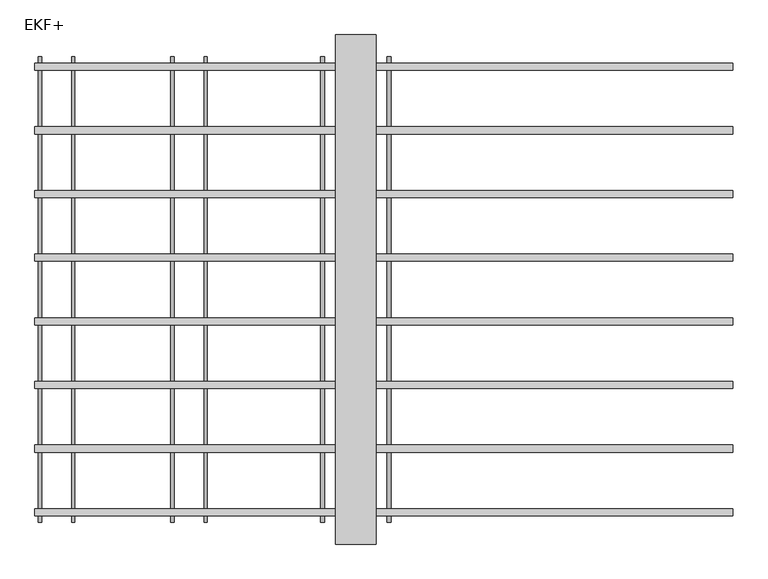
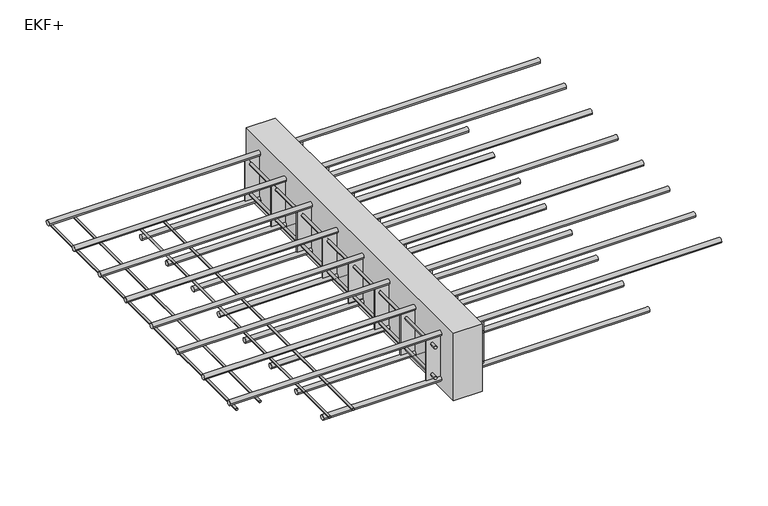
"""IFC4 building model written with IfcOpenShell, lengths in millimetres: fastener geometry, ACINOXplus_Typenreihe_EK : EKF+."""

from ifc_helpers import new_model, si_unit, point, frame, frame_2d, origin, place, context, project, spatial, polyline, circle_curve, trimmed, segment, composite_curve, outline, extrude, source, transform, mapped, element, save


def ekf_7334e405(model_context):
    return source(origin(), model_context, "Body", "SweptSolid", [
        extrude(outline(polyline([(40.0, 500.0), (40.0, -500.0), (-40.0, -500.0), (-40.0, 500.0), (40.0, 500.0)])), frame((0.0, 0.0, -200.0), z_axis=(0.0, 0.0, 1.0), x_axis=(1.0, 0.0, 0.0)), (0.0, 0.0, 1.0), 200.0),
        extrude(outline(polyline([(80.0, -311.0), (80.0, -314.0), (-80.0, -314.0), (-80.0, -311.0), (80.0, -311.0)])), frame((0.0, 0.0, -164.0), z_axis=(0.0, 0.0, 1.0), x_axis=(1.0, 0.0, 0.0)), (0.0, 0.0, 1.0), 120.0),
        extrude(outline(polyline([(80.0, -186.0), (80.0, -189.0), (-80.0, -189.0), (-80.0, -186.0), (80.0, -186.0)])), frame((0.0, 0.0, -164.0), z_axis=(0.0, 0.0, 1.0), x_axis=(1.0, 0.0, 0.0)), (0.0, 0.0, 1.0), 120.0),
        extrude(outline(polyline([(80.0, -61.0), (80.0, -64.0), (-80.0, -64.0), (-80.0, -61.0), (80.0, -61.0)])), frame((0.0, 0.0, -164.0), z_axis=(0.0, 0.0, 1.0), x_axis=(1.0, 0.0, 0.0)), (0.0, 0.0, 1.0), 120.0),
        extrude(outline(polyline([(80.0, 64.0), (80.0, 61.0), (-80.0, 61.0), (-80.0, 64.0), (80.0, 64.0)])), frame((0.0, 0.0, -164.0), z_axis=(0.0, 0.0, 1.0), x_axis=(1.0, 0.0, 0.0)), (0.0, 0.0, 1.0), 120.0),
        extrude(outline(polyline([(80.0, 189.0), (80.0, 186.0), (-80.0, 186.0), (-80.0, 189.0), (80.0, 189.0)])), frame((0.0, 0.0, -164.0), z_axis=(0.0, 0.0, 1.0), x_axis=(1.0, 0.0, 0.0)), (0.0, 0.0, 1.0), 120.0),
        extrude(outline(polyline([(80.0, 314.0), (80.0, 311.0), (-80.0, 311.0), (-80.0, 314.0), (80.0, 314.0)])), frame((0.0, 0.0, -164.0), z_axis=(0.0, 0.0, 1.0), x_axis=(1.0, 0.0, 0.0)), (0.0, 0.0, 1.0), 120.0),
        extrude(outline(polyline([(80.0, -436.0), (80.0, -439.0), (-80.0, -439.0), (-80.0, -436.0), (80.0, -436.0)])), frame((0.0, 0.0, -164.0), z_axis=(0.0, 0.0, 1.0), x_axis=(1.0, 0.0, 0.0)), (0.0, 0.0, 1.0), 120.0),
        extrude(outline(polyline([(80.0, 439.0), (80.0, 436.0), (-80.0, 436.0), (-80.0, 439.0), (80.0, 439.0)])), frame((0.0, 0.0, -164.0), z_axis=(0.0, 0.0, 1.0), x_axis=(1.0, 0.0, 0.0)), (0.0, 0.0, 1.0), 120.0),
        extrude(outline(composite_curve([segment(trimmed(circle_curve(frame_2d((-149.0, -65.0)), 4.0), [point((-149.0, -61.0))], [point((-149.0, -69.0))], False, "CARTESIAN"), True, "CONTINUOUS"), segment(trimmed(circle_curve(frame_2d((-149.0, -65.0)), 4.0), [point((-149.0, -69.0))], [point((-149.0, -61.0))], False, "CARTESIAN"), True, "CONTINUOUS")], self_intersect=False)), frame((0.0, -457.5, 0.0), z_axis=(0.0, 1.0, 0.0), x_axis=(0.0, 0.0, 1.0)), (0.0, 0.0, 1.0), 915.0),
        extrude(outline(composite_curve([segment(trimmed(circle_curve(frame_2d((-149.0, 65.0)), 4.0), [point((-149.0, 69.0))], [point((-149.0, 61.0))], False, "CARTESIAN"), True, "CONTINUOUS"), segment(trimmed(circle_curve(frame_2d((-149.0, 65.0)), 4.0), [point((-149.0, 61.0))], [point((-149.0, 69.0))], False, "CARTESIAN"), True, "CONTINUOUS")], self_intersect=False)), frame((0.0, -457.5, 0.0), z_axis=(0.0, 1.0, 0.0), x_axis=(0.0, 0.0, 1.0)), (0.0, 0.0, 1.0), 915.0),
        extrude(outline(composite_curve([segment(trimmed(circle_curve(frame_2d((-59.0, -65.0)), 4.0), [point((-59.0, -61.0))], [point((-59.0, -69.0))], False, "CARTESIAN"), True, "CONTINUOUS"), segment(trimmed(circle_curve(frame_2d((-59.0, -65.0)), 4.0), [point((-59.0, -69.0))], [point((-59.0, -61.0))], False, "CARTESIAN"), True, "CONTINUOUS")], self_intersect=False)), frame((0.0, -457.5, 0.0), z_axis=(0.0, 1.0, 0.0), x_axis=(0.0, 0.0, 1.0)), (0.0, 0.0, 1.0), 915.0),
        extrude(outline(composite_curve([segment(trimmed(circle_curve(frame_2d((-59.0, 65.0)), 4.0), [point((-59.0, 69.0))], [point((-59.0, 61.0))], False, "CARTESIAN"), True, "CONTINUOUS"), segment(trimmed(circle_curve(frame_2d((-59.0, 65.0)), 4.0), [point((-59.0, 61.0))], [point((-59.0, 69.0))], False, "CARTESIAN"), True, "CONTINUOUS")], self_intersect=False)), frame((0.0, -457.5, 0.0), z_axis=(0.0, 1.0, 0.0), x_axis=(0.0, 0.0, 1.0)), (0.0, 0.0, 1.0), 915.0),
        extrude(outline(composite_curve([segment(trimmed(circle_curve(frame_2d((187.5, -171.0)), 7.0), [point((180.5, -171.0))], [point((194.5, -171.0))], False, "CARTESIAN"), True, "CONTINUOUS"), segment(trimmed(circle_curve(frame_2d((187.5, -171.0)), 7.0), [point((194.5, -171.0))], [point((180.5, -171.0))], False, "CARTESIAN"), True, "CONTINUOUS")], self_intersect=False)), frame((-370.0, 0.0, 0.0), z_axis=(1.0, 0.0, 0.0), x_axis=(0.0, 1.0, 0.0)), (0.0, 0.0, 1.0), 910.0),
        extrude(outline(composite_curve([segment(trimmed(circle_curve(frame_2d((62.5, -171.0)), 7.0), [point((55.5, -171.0))], [point((69.5, -171.0))], False, "CARTESIAN"), True, "CONTINUOUS"), segment(trimmed(circle_curve(frame_2d((62.5, -171.0)), 7.0), [point((69.5, -171.0))], [point((55.5, -171.0))], False, "CARTESIAN"), True, "CONTINUOUS")], self_intersect=False)), frame((-370.0, 0.0, 0.0), z_axis=(1.0, 0.0, 0.0), x_axis=(0.0, 1.0, 0.0)), (0.0, 0.0, 1.0), 910.0),
        extrude(outline(composite_curve([segment(trimmed(circle_curve(frame_2d((-62.5, -171.0)), 7.0), [point((-69.5, -171.0))], [point((-55.5, -171.0))], False, "CARTESIAN"), True, "CONTINUOUS"), segment(trimmed(circle_curve(frame_2d((-62.5, -171.0)), 7.0), [point((-55.5, -171.0))], [point((-69.5, -171.0))], False, "CARTESIAN"), True, "CONTINUOUS")], self_intersect=False)), frame((-370.0, 0.0, 0.0), z_axis=(1.0, 0.0, 0.0), x_axis=(0.0, 1.0, 0.0)), (0.0, 0.0, 1.0), 910.0),
        extrude(outline(composite_curve([segment(trimmed(circle_curve(frame_2d((-187.5, -171.0)), 7.0), [point((-194.5, -171.0))], [point((-180.5, -171.0))], False, "CARTESIAN"), True, "CONTINUOUS"), segment(trimmed(circle_curve(frame_2d((-187.5, -171.0)), 7.0), [point((-180.5, -171.0))], [point((-194.5, -171.0))], False, "CARTESIAN"), True, "CONTINUOUS")], self_intersect=False)), frame((-370.0, 0.0, 0.0), z_axis=(1.0, 0.0, 0.0), x_axis=(0.0, 1.0, 0.0)), (0.0, 0.0, 1.0), 910.0),
        extrude(outline(composite_curve([segment(trimmed(circle_curve(frame_2d((312.5, -171.0)), 7.0), [point((305.5, -171.0))], [point((319.5, -171.0))], False, "CARTESIAN"), True, "CONTINUOUS"), segment(trimmed(circle_curve(frame_2d((312.5, -171.0)), 7.0), [point((319.5, -171.0))], [point((305.5, -171.0))], False, "CARTESIAN"), True, "CONTINUOUS")], self_intersect=False)), frame((-370.0, 0.0, 0.0), z_axis=(1.0, 0.0, 0.0), x_axis=(0.0, 1.0, 0.0)), (0.0, 0.0, 1.0), 910.0),
        extrude(outline(composite_curve([segment(trimmed(circle_curve(frame_2d((437.5, -171.0)), 7.0), [point((430.5, -171.0))], [point((444.5, -171.0))], False, "CARTESIAN"), True, "CONTINUOUS"), segment(trimmed(circle_curve(frame_2d((437.5, -171.0)), 7.0), [point((444.5, -171.0))], [point((430.5, -171.0))], False, "CARTESIAN"), True, "CONTINUOUS")], self_intersect=False)), frame((-370.0, 0.0, 0.0), z_axis=(1.0, 0.0, 0.0), x_axis=(0.0, 1.0, 0.0)), (0.0, 0.0, 1.0), 910.0),
        extrude(outline(composite_curve([segment(trimmed(circle_curve(frame_2d((-312.5, -171.0)), 7.0), [point((-319.5, -171.0))], [point((-305.5, -171.0))], False, "CARTESIAN"), True, "CONTINUOUS"), segment(trimmed(circle_curve(frame_2d((-312.5, -171.0)), 7.0), [point((-305.5, -171.0))], [point((-319.5, -171.0))], False, "CARTESIAN"), True, "CONTINUOUS")], self_intersect=False)), frame((-370.0, 0.0, 0.0), z_axis=(1.0, 0.0, 0.0), x_axis=(0.0, 1.0, 0.0)), (0.0, 0.0, 1.0), 910.0),
        extrude(outline(composite_curve([segment(trimmed(circle_curve(frame_2d((-437.5, -171.0)), 7.0), [point((-444.5, -171.0))], [point((-430.5, -171.0))], False, "CARTESIAN"), True, "CONTINUOUS"), segment(trimmed(circle_curve(frame_2d((-437.5, -171.0)), 7.0), [point((-430.5, -171.0))], [point((-444.5, -171.0))], False, "CARTESIAN"), True, "CONTINUOUS")], self_intersect=False)), frame((-370.0, 0.0, 0.0), z_axis=(1.0, 0.0, 0.0), x_axis=(0.0, 1.0, 0.0)), (0.0, 0.0, 1.0), 910.0),
        extrude(outline(composite_curve([segment(trimmed(circle_curve(frame_2d((187.5, -37.0)), 7.0), [point((180.5, -37.0))], [point((194.5, -37.0))], False, "CARTESIAN"), True, "CONTINUOUS"), segment(trimmed(circle_curve(frame_2d((187.5, -37.0)), 7.0), [point((194.5, -37.0))], [point((180.5, -37.0))], False, "CARTESIAN"), True, "CONTINUOUS")], self_intersect=False)), frame((-630.0, 0.0, 0.0), z_axis=(1.0, 0.0, 0.0), x_axis=(0.0, 1.0, 0.0)), (0.0, 0.0, 1.0), 1370.0),
        extrude(outline(composite_curve([segment(trimmed(circle_curve(frame_2d((62.5, -37.0)), 7.0), [point((55.5, -37.0))], [point((69.5, -37.0))], False, "CARTESIAN"), True, "CONTINUOUS"), segment(trimmed(circle_curve(frame_2d((62.5, -37.0)), 7.0), [point((69.5, -37.0))], [point((55.5, -37.0))], False, "CARTESIAN"), True, "CONTINUOUS")], self_intersect=False)), frame((-630.0, 0.0, 0.0), z_axis=(1.0, 0.0, 0.0), x_axis=(0.0, 1.0, 0.0)), (0.0, 0.0, 1.0), 1370.0),
        extrude(outline(composite_curve([segment(trimmed(circle_curve(frame_2d((-62.5, -37.0)), 7.0), [point((-69.5, -37.0))], [point((-55.5, -37.0))], False, "CARTESIAN"), True, "CONTINUOUS"), segment(trimmed(circle_curve(frame_2d((-62.5, -37.0)), 7.0), [point((-55.5, -37.0))], [point((-69.5, -37.0))], False, "CARTESIAN"), True, "CONTINUOUS")], self_intersect=False)), frame((-630.0, 0.0, 0.0), z_axis=(1.0, 0.0, 0.0), x_axis=(0.0, 1.0, 0.0)), (0.0, 0.0, 1.0), 1370.0),
        extrude(outline(composite_curve([segment(trimmed(circle_curve(frame_2d((-187.5, -37.0)), 7.0), [point((-194.5, -37.0))], [point((-180.5, -37.0))], False, "CARTESIAN"), True, "CONTINUOUS"), segment(trimmed(circle_curve(frame_2d((-187.5, -37.0)), 7.0), [point((-180.5, -37.0))], [point((-194.5, -37.0))], False, "CARTESIAN"), True, "CONTINUOUS")], self_intersect=False)), frame((-630.0, 0.0, 0.0), z_axis=(1.0, 0.0, 0.0), x_axis=(0.0, 1.0, 0.0)), (0.0, 0.0, 1.0), 1370.0),
        extrude(outline(composite_curve([segment(trimmed(circle_curve(frame_2d((312.5, -37.0)), 7.0), [point((305.5, -37.0))], [point((319.5, -37.0))], False, "CARTESIAN"), True, "CONTINUOUS"), segment(trimmed(circle_curve(frame_2d((312.5, -37.0)), 7.0), [point((319.5, -37.0))], [point((305.5, -37.0))], False, "CARTESIAN"), True, "CONTINUOUS")], self_intersect=False)), frame((-630.0, 0.0, 0.0), z_axis=(1.0, 0.0, 0.0), x_axis=(0.0, 1.0, 0.0)), (0.0, 0.0, 1.0), 1370.0),
        extrude(outline(composite_curve([segment(trimmed(circle_curve(frame_2d((437.5, -37.0)), 7.0), [point((430.5, -37.0))], [point((444.5, -37.0))], False, "CARTESIAN"), True, "CONTINUOUS"), segment(trimmed(circle_curve(frame_2d((437.5, -37.0)), 7.0), [point((444.5, -37.0))], [point((430.5, -37.0))], False, "CARTESIAN"), True, "CONTINUOUS")], self_intersect=False)), frame((-630.0, 0.0, 0.0), z_axis=(1.0, 0.0, 0.0), x_axis=(0.0, 1.0, 0.0)), (0.0, 0.0, 1.0), 1370.0),
        extrude(outline(composite_curve([segment(trimmed(circle_curve(frame_2d((-312.5, -37.0)), 7.0), [point((-319.5, -37.0))], [point((-305.5, -37.0))], False, "CARTESIAN"), True, "CONTINUOUS"), segment(trimmed(circle_curve(frame_2d((-312.5, -37.0)), 7.0), [point((-305.5, -37.0))], [point((-319.5, -37.0))], False, "CARTESIAN"), True, "CONTINUOUS")], self_intersect=False)), frame((-630.0, 0.0, 0.0), z_axis=(1.0, 0.0, 0.0), x_axis=(0.0, 1.0, 0.0)), (0.0, 0.0, 1.0), 1370.0),
        extrude(outline(composite_curve([segment(trimmed(circle_curve(frame_2d((-437.5, -37.0)), 7.0), [point((-444.5, -37.0))], [point((-430.5, -37.0))], False, "CARTESIAN"), True, "CONTINUOUS"), segment(trimmed(circle_curve(frame_2d((-437.5, -37.0)), 7.0), [point((-430.5, -37.0))], [point((-444.5, -37.0))], False, "CARTESIAN"), True, "CONTINUOUS")], self_intersect=False)), frame((-630.0, 0.0, 0.0), z_axis=(1.0, 0.0, 0.0), x_axis=(0.0, 1.0, 0.0)), (0.0, 0.0, 1.0), 1370.0),
        extrude(outline(composite_curve([segment(trimmed(circle_curve(frame_2d((-161.0, -360.0)), 3.0), [point((-161.0, -357.0))], [point((-161.0, -363.0))], False, "CARTESIAN"), True, "CONTINUOUS"), segment(trimmed(circle_curve(frame_2d((-161.0, -360.0)), 3.0), [point((-161.0, -363.0))], [point((-161.0, -357.0))], False, "CARTESIAN"), True, "CONTINUOUS")], self_intersect=False)), frame((0.0, -457.5, 0.0), z_axis=(0.0, 1.0, 0.0), x_axis=(0.0, 0.0, 1.0)), (0.0, 0.0, 1.0), 915.0),
        extrude(outline(composite_curve([segment(trimmed(circle_curve(frame_2d((-161.0, -295.0)), 3.0), [point((-161.0, -292.0))], [point((-161.0, -298.0))], False, "CARTESIAN"), True, "CONTINUOUS"), segment(trimmed(circle_curve(frame_2d((-161.0, -295.0)), 3.0), [point((-161.0, -298.0))], [point((-161.0, -292.0))], False, "CARTESIAN"), True, "CONTINUOUS")], self_intersect=False)), frame((0.0, -457.5, 0.0), z_axis=(0.0, 1.0, 0.0), x_axis=(0.0, 0.0, 1.0)), (0.0, 0.0, 1.0), 915.0),
        extrude(outline(composite_curve([segment(trimmed(circle_curve(frame_2d((-47.0, -620.0)), 3.0), [point((-47.0, -617.0))], [point((-47.0, -623.0))], False, "CARTESIAN"), True, "CONTINUOUS"), segment(trimmed(circle_curve(frame_2d((-47.0, -620.0)), 3.0), [point((-47.0, -623.0))], [point((-47.0, -617.0))], False, "CARTESIAN"), True, "CONTINUOUS")], self_intersect=False)), frame((0.0, -457.5, 0.0), z_axis=(0.0, 1.0, 0.0), x_axis=(0.0, 0.0, 1.0)), (0.0, 0.0, 1.0), 915.0),
        extrude(outline(composite_curve([segment(trimmed(circle_curve(frame_2d((-47.0, -555.0)), 3.0), [point((-47.0, -552.0))], [point((-47.0, -558.0))], False, "CARTESIAN"), True, "CONTINUOUS"), segment(trimmed(circle_curve(frame_2d((-47.0, -555.0)), 3.0), [point((-47.0, -558.0))], [point((-47.0, -552.0))], False, "CARTESIAN"), True, "CONTINUOUS")], self_intersect=False)), frame((0.0, -457.5, 0.0), z_axis=(0.0, 1.0, 0.0), x_axis=(0.0, 0.0, 1.0)), (0.0, 0.0, 1.0), 915.0),
    ])


if __name__ == "__main__":
    model = new_model("IFC4")
    model_context = context("Model", 3, world=origin())
    ifc_project = project(units=[si_unit("LENGTHUNIT", "METRE", prefix="MILLI")], contexts=[model_context])
    site = spatial("IfcSite", under=ifc_project)
    building = spatial("IfcBuilding", under=site)
    placement = place(None, origin())
    ekf_shape = ekf_7334e405(model_context)
    element("IfcFastener", 1, ObjectType="ACINOXplus_Typenreihe_EK : EKF+", at=placement, inside=building, context=model_context, shape_type="MappedRepresentation", body=[
        mapped(ekf_shape, transform((0.0, 0.0, 0.0), x_axis=(1.0, 0.0, 0.0), y_axis=(0.0, 1.0, 0.0), z_axis=(0.0, 0.0, 1.0))),
    ])
    save(model, "model.ifc")
